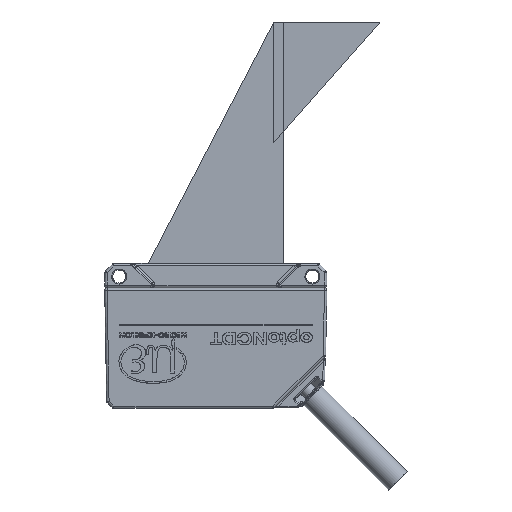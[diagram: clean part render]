
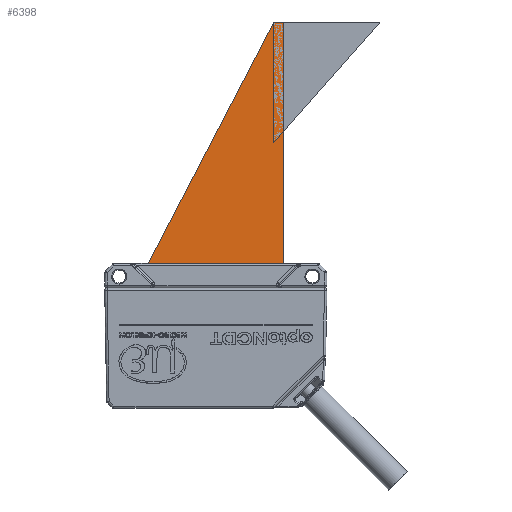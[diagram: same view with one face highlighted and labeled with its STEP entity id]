
A CAD part, front view. The second image highlights one B-rep face of the part: STEP entity #6398.
In plain terms, the highlighted planar face has unit normal (0, -1, 0).
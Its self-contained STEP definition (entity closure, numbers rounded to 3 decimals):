
#1004 = LINE ( 'NONE', #37496, #19568 ) ;
#5677 = DIRECTION ( 'NONE',  ( 0., 0., -1. ) ) ;
#5884 = ORIENTED_EDGE ( 'NONE', *, *, #56666, .F. ) ;
#5928 = DIRECTION ( 'NONE',  ( 1., 0., 0. ) ) ;
#6398 = ADVANCED_FACE ( 'NONE', ( #49029 ), #50186, .T. ) ;
#7020 = CARTESIAN_POINT ( 'NONE',  ( 14., -1.5, 5. ) ) ;
#12118 = EDGE_LOOP ( 'NONE', ( #40779, #41668, #5884, #28481 ) ) ;
#13720 = CARTESIAN_POINT ( 'NONE',  ( 12., -1.5, 55. ) ) ;
#13822 = LINE ( 'NONE', #25690, #38951 ) ;
#15343 = VERTEX_POINT ( 'NONE', #25874 ) ;
#18729 = VECTOR ( 'NONE', #5928, 1000. ) ;
#19568 = VECTOR ( 'NONE', #37268, 1000. ) ;
#21111 = VERTEX_POINT ( 'NONE', #7020 ) ;
#24971 = EDGE_CURVE ( 'NONE', #21111, #40463, #1004, .T. ) ;
#25690 = CARTESIAN_POINT ( 'NONE',  ( 12., -1.5, 55. ) ) ;
#25874 = CARTESIAN_POINT ( 'NONE',  ( 14., -1.5, 55. ) ) ;
#26211 = EDGE_CURVE ( 'NONE', #40463, #31651, #13822, .T. ) ;
#28481 = ORIENTED_EDGE ( 'NONE', *, *, #26211, .F. ) ;
#29192 = CARTESIAN_POINT ( 'NONE',  ( 0., -1.5, 0. ) ) ;
#30130 = AXIS2_PLACEMENT_3D ( 'NONE', #29192, #65779, #34813 ) ;
#30942 = CARTESIAN_POINT ( 'NONE',  ( 14., -1.5, 5. ) ) ;
#31651 = VERTEX_POINT ( 'NONE', #13720 ) ;
#34813 = DIRECTION ( 'NONE',  ( 0., 0., -1. ) ) ;
#36798 = EDGE_CURVE ( 'NONE', #15343, #21111, #60939, .T. ) ;
#37268 = DIRECTION ( 'NONE',  ( -1., 0., 0. ) ) ;
#37496 = CARTESIAN_POINT ( 'NONE',  ( -14., -1.5, 5. ) ) ;
#38951 = VECTOR ( 'NONE', #51645, 1000. ) ;
#40463 = VERTEX_POINT ( 'NONE', #43013 ) ;
#40779 = ORIENTED_EDGE ( 'NONE', *, *, #24971, .F. ) ;
#41668 = ORIENTED_EDGE ( 'NONE', *, *, #36798, .F. ) ;
#43013 = CARTESIAN_POINT ( 'NONE',  ( -14., -1.5, 5. ) ) ;
#43878 = VECTOR ( 'NONE', #5677, 1000. ) ;
#49029 = FACE_OUTER_BOUND ( 'NONE', #12118, .T. ) ;
#50186 = PLANE ( 'NONE',  #30130 ) ;
#51645 = DIRECTION ( 'NONE',  ( 0.461, 0., 0.887 ) ) ;
#52819 = CARTESIAN_POINT ( 'NONE',  ( 14., -1.5, 55. ) ) ;
#56666 = EDGE_CURVE ( 'NONE', #31651, #15343, #58283, .T. ) ;
#58283 = LINE ( 'NONE', #52819, #18729 ) ;
#60939 = LINE ( 'NONE', #30942, #43878 ) ;
#65779 = DIRECTION ( 'NONE',  ( 0., -1., 0. ) ) ;
